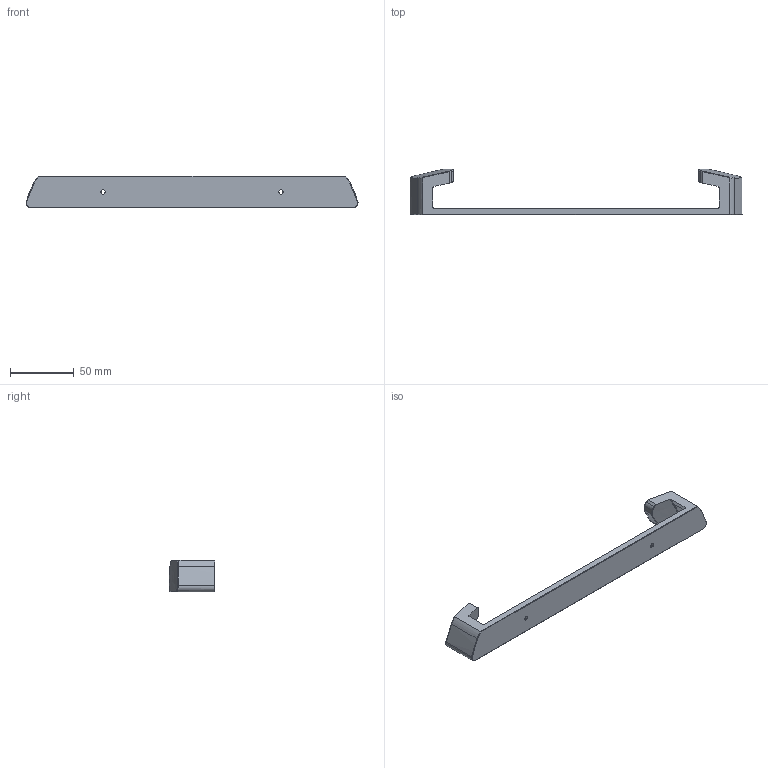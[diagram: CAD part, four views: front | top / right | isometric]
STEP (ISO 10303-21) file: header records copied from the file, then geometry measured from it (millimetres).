
FILE_DESCRIPTION (( 'STEP AP214' ), '1' );
FILE_NAME ('Topfdeckelhalterung 26cm.STEP', '2025-05-02T10:32:16', ( '' ), ( '' ), 'SwSTEP 2.0', 'SolidWorks 2012', '' );
FILE_SCHEMA (( 'AUTOMOTIVE_DESIGN' ));
Length unit declared in the file: millimetre
Products named in the file (1): Topfdeckelhalterung 26cm
Bounding box: 261.14 x 35.85 x 25 mm (x, y, z)
Volume: 48689.9 mm3; surface area: 20796.6 mm2
Topology: 1 solids, 1 shells, 113 faces, 281 edges, 168 vertices
Faces by surface type: bspline 50, cylinder 23, plane 20, cone 10, torus 10
Entity records: 5147 total; most frequent: CARTESIAN_POINT 2843, ORIENTED_EDGE 558, DIRECTION 357, EDGE_CURVE 279, VERTEX_POINT 168, AXIS2_PLACEMENT_3D 146, B_SPLINE_CURVE_WITH_KNOTS 126, EDGE_LOOP 117
